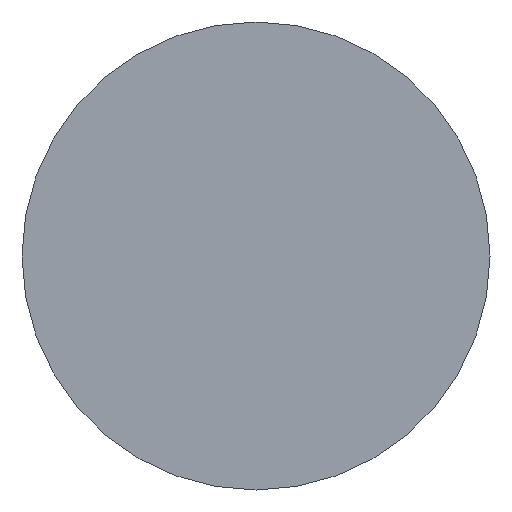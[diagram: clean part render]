
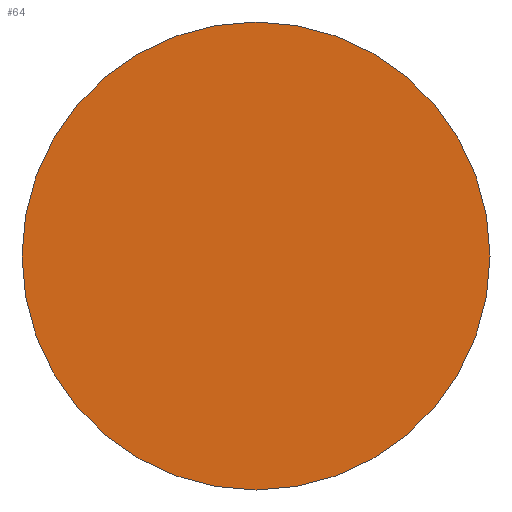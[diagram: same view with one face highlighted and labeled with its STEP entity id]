
A CAD part, front view. The second image highlights one B-rep face of the part: STEP entity #64.
In plain terms, the highlighted planar face has unit normal (0, -1, 0).
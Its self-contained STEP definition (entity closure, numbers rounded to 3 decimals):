
#64 = ADVANCED_FACE ( 'NONE', ( #1335 ), #244, .T. ) ;
#69 = CARTESIAN_POINT ( 'NONE',  ( 0., 17., -25. ) ) ;
#244 = PLANE ( 'NONE',  #426 ) ;
#269 = ORIENTED_EDGE ( 'NONE', *, *, #1285, .T. ) ;
#285 = DIRECTION ( 'NONE',  ( 0., 0., -1. ) ) ;
#346 = VERTEX_POINT ( 'NONE', #69 ) ;
#348 = DIRECTION ( 'NONE',  ( 0., 0., -1. ) ) ;
#426 = AXIS2_PLACEMENT_3D ( 'NONE', #1025, #673, #285 ) ;
#468 = DIRECTION ( 'NONE',  ( 0., -1., 0. ) ) ;
#607 = AXIS2_PLACEMENT_3D ( 'NONE', #658, #1188, #934 ) ;
#658 = CARTESIAN_POINT ( 'NONE',  ( 0., 17., 0. ) ) ;
#666 = EDGE_CURVE ( 'NONE', #1582, #346, #1166, .T. ) ;
#673 = DIRECTION ( 'NONE',  ( 0., -1., 0. ) ) ;
#934 = DIRECTION ( 'NONE',  ( 0., 0., -1. ) ) ;
#1025 = CARTESIAN_POINT ( 'NONE',  ( 0., 17., -25. ) ) ;
#1134 = CARTESIAN_POINT ( 'NONE',  ( 0., 17., 0. ) ) ;
#1166 = CIRCLE ( 'NONE', #607, 25. ) ;
#1188 = DIRECTION ( 'NONE',  ( 0., -1., 0. ) ) ;
#1213 = AXIS2_PLACEMENT_3D ( 'NONE', #1134, #468, #348 ) ;
#1285 = EDGE_CURVE ( 'NONE', #346, #1582, #1461, .T. ) ;
#1291 = EDGE_LOOP ( 'NONE', ( #269, #1512 ) ) ;
#1335 = FACE_OUTER_BOUND ( 'NONE', #1291, .T. ) ;
#1461 = CIRCLE ( 'NONE', #1213, 25. ) ;
#1512 = ORIENTED_EDGE ( 'NONE', *, *, #666, .T. ) ;
#1566 = CARTESIAN_POINT ( 'NONE',  ( 0., 17., 25. ) ) ;
#1582 = VERTEX_POINT ( 'NONE', #1566 ) ;
